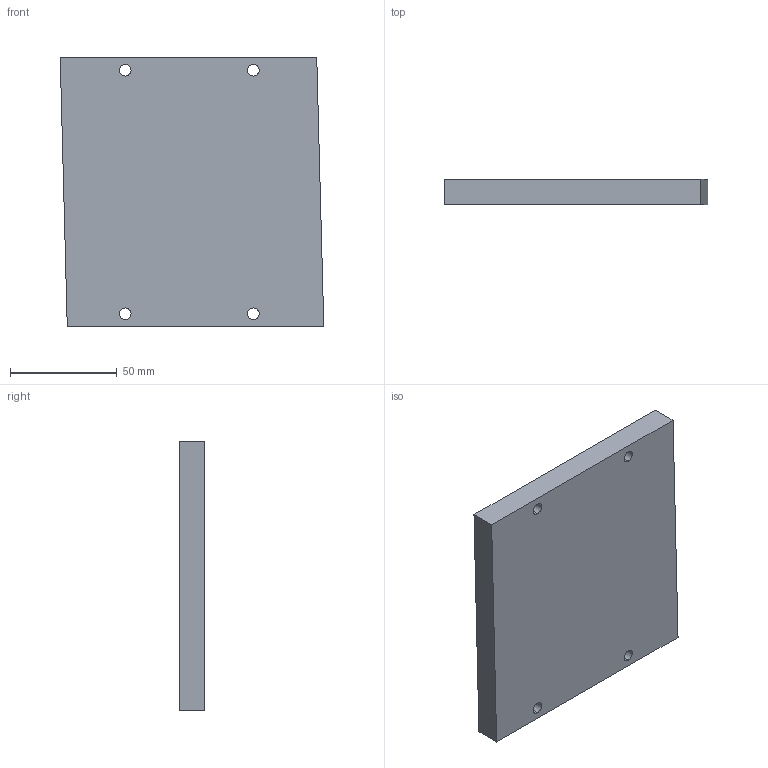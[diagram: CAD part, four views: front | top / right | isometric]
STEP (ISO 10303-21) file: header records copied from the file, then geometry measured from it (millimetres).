
FILE_DESCRIPTION (( 'STEP AP214' ), '1' );
FILE_NAME ('MK4-120.STEP', '2025-09-05T09:04:39', ( '' ), ( '' ), 'SwSTEP 2.0', 'SolidWorks 2016', '' );
FILE_SCHEMA (( 'AUTOMOTIVE_DESIGN' ));
Length unit declared in the file: millimetre
Products named in the file (1): MK4-120
Bounding box: 123.3 x 11.7 x 126 mm (x, y, z)
Volume: 174543.1 mm3; surface area: 36938.3 mm2
Topology: 1 solids, 1 shells, 26 faces, 60 edges, 40 vertices
Faces by surface type: cylinder 16, plane 10
Entity records: 806 total; most frequent: DIRECTION 146, CARTESIAN_POINT 127, ORIENTED_EDGE 120, EDGE_CURVE 60, AXIS2_PLACEMENT_3D 59, VERTEX_POINT 40, EDGE_LOOP 38, CIRCLE 32
